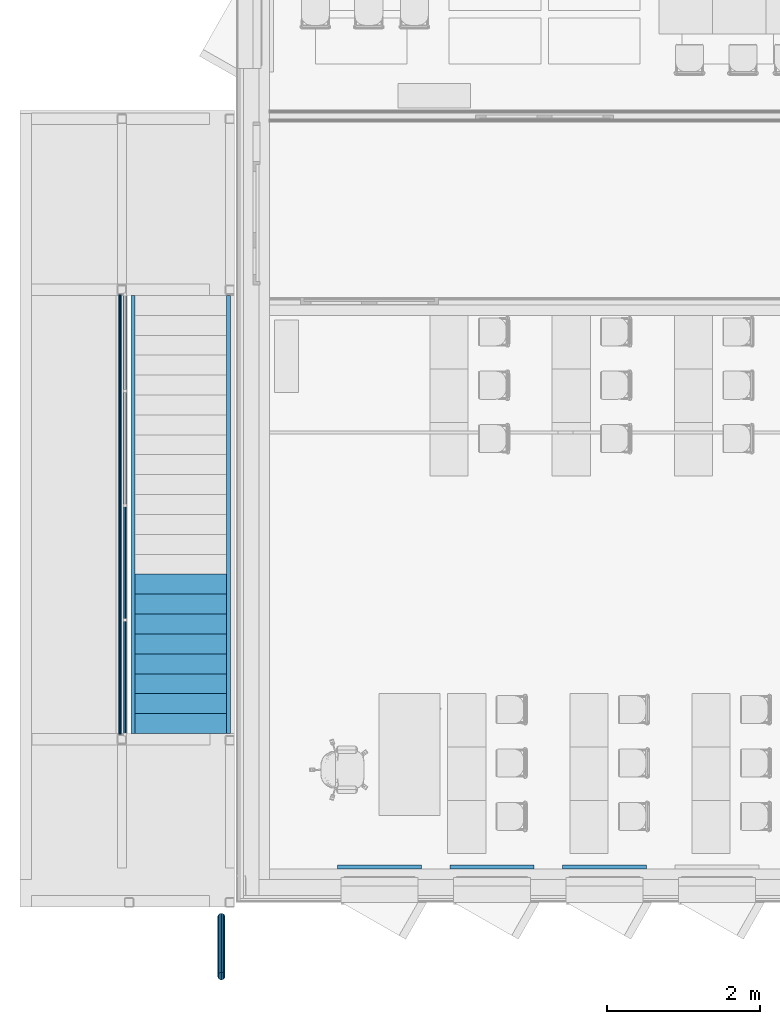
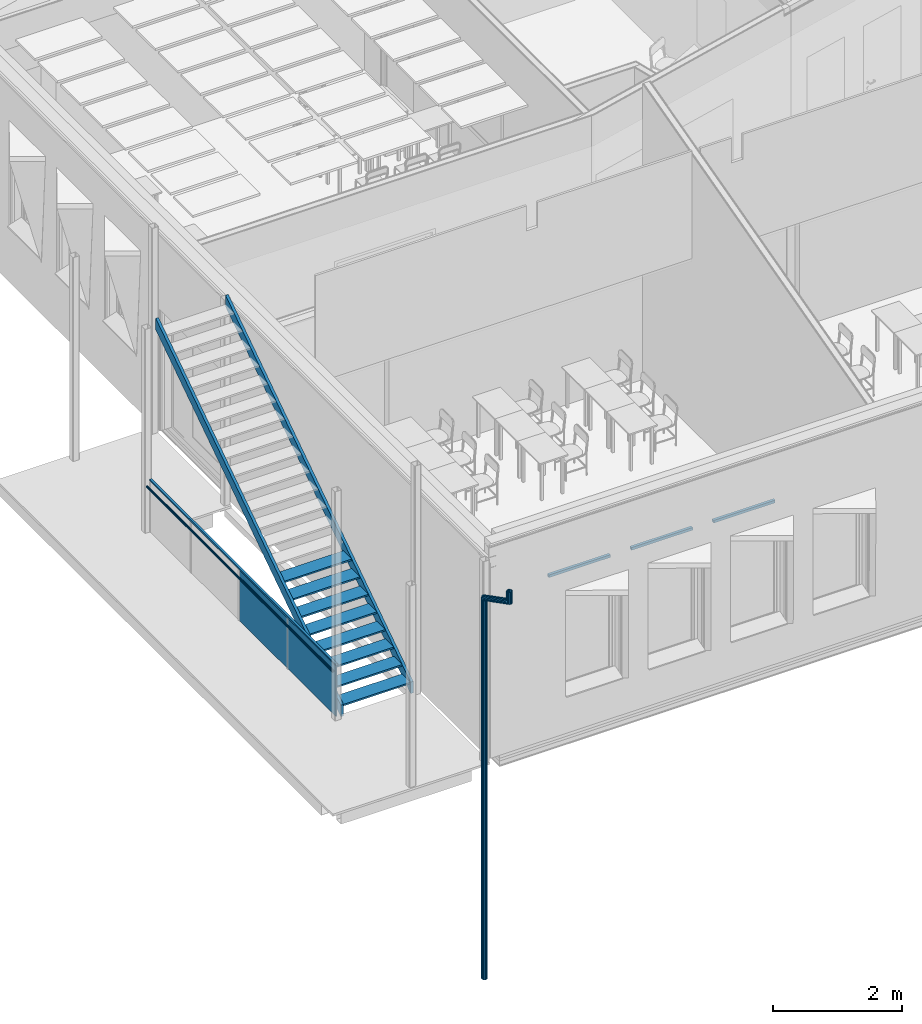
# One storey, part 49 of 153: 14 building element parts, 4 discrete accessories, 2 elements without a shape of their own.
"""IFC2X3 building model written with IfcOpenShell, lengths in millimetres."""

import ifcopenshell
import ifcopenshell.guid

model = None  # the IFC model being written
_history = None  # IfcOwnerHistory: only IFC2X3 demands one
_inside = {}  # id of a spatial element -> (the spatial element, [elements in it])
_under = {}  # id of a project, library or spatial element -> (it, [spatial elements below it])
_declared = {}  # id of a project -> (the project, [libraries it declares])
_typed = {}  # id of a type object -> (the type object, [elements of that type])
_made_of = {}  # id of a material, layer set ... -> (it, [elements and type objects made of it])


def new_model(schema):
    """Start an empty IFC model of exactly this schema.

    Asked for "IFC4X3", IfcOpenShell would pick the latest addendum, in which some entities
    have other attributes; the version numbers below select the first issue.
    IFC2X3 requires an IfcOwnerHistory on every rooted entity: one is made here for all.
    """
    global model, _history
    if schema == "IFC4X3":
        model = ifcopenshell.file(schema_version=(4, 3, 0, 0))
    else:
        model = ifcopenshell.file(schema=schema)
    _inside.clear()
    _under.clear()
    _declared.clear()
    _typed.clear()
    _made_of.clear()
    _history = None
    if model.schema == "IFC2X3":
        org = make("IfcOrganization", Name="unknown")
        user = make(
            "IfcPersonAndOrganization",
            ThePerson=make("IfcPerson", FamilyName="unknown"),
            TheOrganization=org,
        )
        app = make(
            "IfcApplication",
            ApplicationDeveloper=org,
            Version="unknown",
            ApplicationFullName="unknown",
            ApplicationIdentifier="unknown",
        )
        _history = make(
            "IfcOwnerHistory",
            OwningUser=user,
            OwningApplication=app,
            ChangeAction="ADDED",
            CreationDate=0,
        )
    return model


def make(cls, **values):
    """One entity of the class cls with the attributes given. An attribute that is None is left unset."""
    return model.create_entity(
        cls, **{name: value for name, value in values.items() if value is not None}
    )


def entity(cls, *values):
    """Any entity or typed value of the class cls, its attributes in the order of the schema. None: left unset."""
    e = model.create_entity(cls)
    for i, value in enumerate(values):
        if value is not None:
            e[i] = value
    return e


def rooted(cls, **values):
    """An entity with a GlobalId (a new one), such as an element, a storey or a relation."""
    return make(cls, GlobalId=ifcopenshell.guid.new(), OwnerHistory=_history, **values)


def si_unit(unit_type, name, prefix=None):
    """IfcSIUnit, for example si_unit("LENGTHUNIT", "METRE", prefix="MILLI")."""
    return make("IfcSIUnit", UnitType=unit_type, Prefix=prefix, Name=name)


def converted_unit(unit_type, name, factor, base, dimensions=None, offset=None):
    """IfcConversionBasedUnit, such as the inch: factor (a typed value) times the base unit."""
    return make(
        "IfcConversionBasedUnit"
        if offset is None
        else "IfcConversionBasedUnitWithOffset",
        ConversionOffset=offset,
        Dimensions=None
        if dimensions is None
        else entity("IfcDimensionalExponents", *dimensions),
        UnitType=unit_type,
        Name=name,
        ConversionFactor=make(
            "IfcMeasureWithUnit", ValueComponent=factor, UnitComponent=base
        ),
    )


def derived_unit(unit_type, elements):
    """IfcDerivedUnit: a product of units, each with its exponent."""
    return make(
        "IfcDerivedUnit",
        Elements=[
            make("IfcDerivedUnitElement", Unit=unit, Exponent=power)
            for unit, power in elements
        ],
        UnitType=unit_type,
    )


def money_unit(currency):
    """IfcMonetaryUnit."""
    return make("IfcMonetaryUnit", Currency=currency)


def assignment(units):
    """IfcUnitAssignment: the units of a project."""
    return None if units is None else make("IfcUnitAssignment", Units=units)


def point(xyz):
    """IfcCartesianPoint."""
    return None if xyz is None else make("IfcCartesianPoint", Coordinates=xyz)


def direction(xyz):
    """IfcDirection."""
    return None if xyz is None else make("IfcDirection", DirectionRatios=xyz)


def frame(location, z_axis=None, x_axis=None):
    """IfcAxis2Placement3D, a coordinate frame: its origin and axes. An axis left out is left unset."""
    return make(
        "IfcAxis2Placement3D",
        Location=point(location),
        Axis=direction(z_axis),
        RefDirection=direction(x_axis),
    )


def origin_with_axes():
    """The frame at (0, 0, 0) with the z axis (0, 0, 1) and the x axis (1, 0, 0) written out."""
    return frame((0.0, 0.0, 0.0), z_axis=(0.0, 0.0, 1.0), x_axis=(1.0, 0.0, 0.0))


def place(relative_to, where):
    """IfcLocalPlacement: puts the frame where relative to a parent placement (None: the world)."""
    return make(
        "IfcLocalPlacement", PlacementRelTo=relative_to, RelativePlacement=where
    )


def context(
    kind, dimensions, precision=None, world=None, true_north=None, identifier=None
):
    """IfcGeometricRepresentationContext, for example the 3D "Model" context."""
    return make(
        "IfcGeometricRepresentationContext",
        ContextIdentifier=identifier,
        ContextType=kind,
        CoordinateSpaceDimension=dimensions,
        Precision=precision,
        WorldCoordinateSystem=world,
        TrueNorth=true_north,
    )


def subcontext(parent, identifier, kind, view, scale=None):
    """IfcGeometricRepresentationSubContext, for example "Body" below "Model"."""
    return make(
        "IfcGeometricRepresentationSubContext",
        ContextIdentifier=identifier,
        ContextType=kind,
        ParentContext=parent,
        TargetScale=scale,
        TargetView=view,
    )


def project(units=None, contexts=None):
    """IfcProject with its units and contexts."""
    return rooted(
        "IfcProject",
        Name="project",
        RepresentationContexts=contexts,
        UnitsInContext=assignment(units),
    )


def spatial(cls, under=None, at=None, **own):
    """A site, building, storey or space (cls), placed at a placement, below another one or the project."""
    s = rooted(cls, ObjectPlacement=at, **own)
    if under is not None:
        _under.setdefault(under.id(), (under, []))[1].append(s)
    return s


def faces_of(points, faces, orient=None, outer=None):
    """IfcFace entities. A face is a list of loops; a loop is a list of indices into points, from 0.

    orient and outer hold one flag for each loop. By default every Orientation is true, the
    first loop of a face is its IfcFaceOuterBound and the others are IfcFaceBound.
    """
    made = []
    for i, loops in enumerate(faces):
        bounds = []
        for j, loop in enumerate(loops):
            is_outer = j == 0 if outer is None else outer[i][j]
            bounds.append(
                make(
                    "IfcFaceOuterBound" if is_outer else "IfcFaceBound",
                    Bound=make("IfcPolyLoop", Polygon=[points[k] for k in loop]),
                    Orientation=True if orient is None else orient[i][j],
                )
            )
        made.append(make("IfcFace", Bounds=bounds))
    return made


def open_shell(faces, orient=None, outer=None):
    """The faces of one IfcOpenShell. surface_model builds it on its shared points."""
    return ("IfcOpenShell", faces, orient, outer)


def faceted_brep(points, faces, orient=None, outer=None, voids=None):
    """IfcFacetedBrep: a solid bounded by flat faces; with voids (closed shells), ...WithVoids."""
    shared = [point(p) for p in points]
    hull = make("IfcClosedShell", CfsFaces=faces_of(shared, faces, orient, outer))
    if voids is None:
        return make("IfcFacetedBrep", Outer=hull)
    return make(
        "IfcFacetedBrepWithVoids",
        Outer=hull,
        Voids=[
            make(cls, CfsFaces=faces_of(shared, fs, o, b)) for cls, fs, o, b in voids
        ],
    )


def surface_model(cls, points, shells):
    """IfcFaceBasedSurfaceModel or IfcShellBasedSurfaceModel (cls): surfaces that need not close."""
    shared = [point(p) for p in points]
    made = [make(c, CfsFaces=faces_of(shared, fs, o, b)) for c, fs, o, b in shells]
    if cls == "IfcFaceBasedSurfaceModel":
        return make(cls, FbsmFaces=made)
    return make(cls, SbsmBoundary=made)


def shape(context_of_items, identifier, shape_type, items):
    """IfcShapeRepresentation: the items that make up one representation, for example the "Body"."""
    return make(
        "IfcShapeRepresentation",
        ContextOfItems=context_of_items,
        RepresentationIdentifier=identifier,
        RepresentationType=shape_type,
        Items=items,
    )


def material(Name=None, Category=None):
    """IfcMaterial."""
    return make("IfcMaterial", Name=Name, Category=Category)


def made_of(thing, what):
    """Note that an element or type object is made of a material, layer set ...; save() writes the relation."""
    if what is not None:
        _made_of.setdefault(what.id(), (what, []))[1].append(thing)
    return thing


def type_object(cls, material=None, **own):
    """A type object (cls), such as IfcWallType, which elements share."""
    return made_of(rooted(cls, **own), material)


def element(
    cls,
    number,
    at=None,
    inside=None,
    cuts=None,
    type_object=None,
    material=None,
    context=None,
    identifier="Body",
    shape_type=None,
    held_by="IfcProductDefinitionShape",
    body=None,
    shapes=None,
    **own,
):
    """One element of the class cls, such as IfcWall. Its Tag is "e" and its number.

    at: its placement. inside: the storey or other place that contains it. cuts: it is an
    opening in that element (IfcRelVoidsElement). A single representation is given by context,
    identifier, shape_type and body (its items); several are given by shapes. held_by: the class
    of the entity that holds the representations. save() writes the other relations.
    """
    e = rooted(cls, Tag="e%d" % number, ObjectPlacement=at, **own)
    if body is not None:
        shapes = [shape(context, identifier, shape_type, body)]
    if shapes is not None:
        e.Representation = make(held_by, Representations=shapes)
    if inside is not None:
        _inside.setdefault(inside.id(), (inside, []))[1].append(e)
    if cuts is not None:
        rooted(
            "IfcRelVoidsElement", RelatingBuildingElement=cuts, RelatedOpeningElement=e
        )
    if type_object is not None:
        _typed.setdefault(type_object.id(), (type_object, []))[1].append(e)
    return made_of(e, material)


def aggregate(whole, parts):
    """IfcRelAggregates: a whole, such as a stair, and the parts it consists of."""
    return rooted("IfcRelAggregates", RelatingObject=whole, RelatedObjects=parts)


def save(model, path):
    """Write the relations noted so far, then the file.

    IfcRelAggregates (storeys below a building ...), IfcRelContainedInSpatialStructure (elements
    in a storey), IfcRelDefinesByType, IfcRelAssociatesMaterial and IfcRelDeclares: one each for
    every whole, place, type object, material and project.
    """
    for whole, parts in _under.values():
        aggregate(whole, parts)
    for where, things in _inside.values():
        rooted(
            "IfcRelContainedInSpatialStructure",
            RelatedElements=things,
            RelatingStructure=where,
        )
    for kind, things in _typed.values():
        rooted("IfcRelDefinesByType", RelatedObjects=things, RelatingType=kind)
    for what, things in _made_of.values():
        rooted("IfcRelAssociatesMaterial", RelatedObjects=things, RelatingMaterial=what)
    for by, libraries in _declared.values():
        rooted("IfcRelDeclares", RelatingContext=by, RelatedDefinitions=libraries)
    model.write(path)


model = new_model("IFC2X3")

# Units and contexts
model_context = context("Model", 3, precision=0.01, world=origin_with_axes(), true_north=direction((0.0, 1.0)))
body_context = subcontext(model_context, "Body", "Model", "MODEL_VIEW")
ifc_project = project(units=[si_unit("LENGTHUNIT", "METRE", prefix="MILLI"), si_unit("AREAUNIT", "SQUARE_METRE"), si_unit("VOLUMEUNIT", "CUBIC_METRE"), converted_unit("PLANEANGLEUNIT", "DEGREE", entity("IfcPlaneAngleMeasure", 0.0174532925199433), si_unit("PLANEANGLEUNIT", "RADIAN"), dimensions=[0, 0, 0, 0, 0, 0, 0]), money_unit("EUR"), converted_unit("TIMEUNIT", "Year", entity("IfcTimeMeasure", 31557600.0), si_unit("TIMEUNIT", "SECOND"), dimensions=[0, 0, 1, 0, 0, 0, 0]), si_unit("MASSUNIT", "GRAM", prefix="KILO"), si_unit("THERMODYNAMICTEMPERATUREUNIT", "DEGREE_CELSIUS"), si_unit("LUMINOUSINTENSITYUNIT", "LUMEN"), si_unit("ENERGYUNIT", "JOULE", prefix="MEGA"), derived_unit("THERMALCONDUCTANCEUNIT", [(si_unit("POWERUNIT", "WATT"), 1), (si_unit("LENGTHUNIT", "METRE"), -1), (si_unit("THERMODYNAMICTEMPERATUREUNIT", "KELVIN"), -1)]), derived_unit("SPECIFICHEATCAPACITYUNIT", [(si_unit("ENERGYUNIT", "JOULE"), 1), (si_unit("MASSUNIT", "GRAM", prefix="KILO"), -1), (si_unit("THERMODYNAMICTEMPERATUREUNIT", "KELVIN"), -1)]), derived_unit("MASSDENSITYUNIT", [(si_unit("MASSUNIT", "GRAM", prefix="KILO"), 1), (si_unit("VOLUMEUNIT", "CUBIC_METRE"), -1)])], contexts=[model_context])

# Site, building, storey
site_placement = place(None, frame((0.0, 0.0, 8650.0), z_axis=(0.0, 0.0, 1.0), x_axis=(1.0, 0.0, 0.0)))
site = spatial("IfcSite", under=ifc_project, at=site_placement, Name="43301:001:0844", CompositionType="ELEMENT")
building_placement = place(site_placement, origin_with_axes())
building = spatial("IfcBuilding", under=site, at=building_placement, Name="Kuressaare Ametikooli tuulikute mehaanikute õppekorpus", CompositionType="ELEMENT")
storey_placement = place(building_placement, frame((0.0, 0.0, 4100.0), z_axis=(0.0, 0.0, 1.0), x_axis=(1.0, 0.0, 0.0)))
storey = spatial("IfcBuildingStorey", under=building, at=storey_placement, Name="2.korrus", CompositionType="ELEMENT", Elevation=4100.0)

# Discrete accessories
ifc_material_1 = material(Name="GENEERILINE - KONSTRUKTRIOON")
discrete_accessory_type_1 = type_object("IfcDiscreteAccessoryType", Name="GENEERILINE - KONSTRUKTRIOON 50")
for number, where, z_axis, x_axis, name in (
    (1, (89206.06851173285, 9123.838490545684, 2700.0), (0.0, 0.0, 1.0), (1.0, 0.0, 0.0), "RK"),
    (2, (90681.06851173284, 9123.838490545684, 2700.0), (0.0, 0.0, 1.0), (1.0, 0.0, 0.0), "RK"),
    (3, (92156.06851173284, 9123.838490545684, 2700.0), (0.0, 0.0, 1.0), (1.0, 0.0, 0.0), "RK"),
):
    element("IfcDiscreteAccessory", number, at=place(storey_placement, frame(where, z_axis=z_axis, x_axis=x_axis)), inside=storey, type_object=discrete_accessory_type_1, material=ifc_material_1, Name=name, context=body_context, shape_type="Brep", body=[
        faceted_brep([(0.0, 0.0, 49.99999999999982), (0.0, 0.0, 0.0), (1099.999999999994, 0.0, 0.0), (1099.999999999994, 0.0, 49.99999999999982), (0.0, 50.00000000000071, 49.99999999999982), (0.0, 50.00000000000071, 0.0), (1099.999999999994, 50.00000000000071, 0.0), (1099.999999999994, 50.00000000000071, 49.99999999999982)], [[[0, 1, 2, 3]], [[4, 5, 1, 0]], [[2, 1, 5, 6]], [[3, 2, 6, 7]], [[4, 0, 3, 7]], [[7, 6, 5, 4]]]),
    ])
discrete_accessory_type_2 = type_object("IfcDiscreteAccessoryType", Name="Downspout Complex 27")
discrete_accessory_placement = place(storey_placement, frame((87685.14832727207, 8814.391753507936, -3966.646428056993), z_axis=(0.0, 0.0, 1.0), x_axis=(1.0, 0.0, 0.0)))
element("IfcDiscreteAccessory", 4, at=discrete_accessory_placement, inside=storey, type_object=discrete_accessory_type_2, Name="SV püstik", context=body_context, shape_type="SurfaceModel", body=[
    surface_model("IfcShellBasedSurfaceModel", [(50.0, -320.2522919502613, 7000.949244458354), (46.19397662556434, -339.3864635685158, 7000.949244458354), (46.19397662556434, -339.3864635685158, 0.0), (50.0, -320.2522919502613, 0.0), (35.35533905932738, -355.6076310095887, 7000.949244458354), (35.35533905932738, -355.6076310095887, 0.0), (46.19397662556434, -301.1181203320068, 7000.949244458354), (46.19397662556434, -301.1181203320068, 0.0), (19.13417161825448, -366.4462685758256, 7000.949244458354), (19.13417161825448, -366.4462685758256, 0.0), (35.35533905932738, -284.8969528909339, 7000.949244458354), (35.35533905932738, -284.8969528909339, 0.0), (0.0, -370.2522919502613, 7000.949244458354), (0.0, -370.2522919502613, 0.0), (19.13417161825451, -274.0583153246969, 7000.949244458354), (19.13417161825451, -274.0583153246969, 0.0), (-19.13417161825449, -366.4462685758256, 7000.949244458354), (-19.13417161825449, -366.4462685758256, 0.0), (0.0, -270.2522919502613, 7000.949244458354), (0.0, -270.2522919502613, 0.0), (-35.35533905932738, -355.6076310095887, 7000.949244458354), (-35.35533905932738, -355.6076310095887, 0.0), (-19.13417161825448, -274.0583153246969, 7000.949244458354), (-19.13417161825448, -274.0583153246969, 0.0), (-46.19397662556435, -339.3864635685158, 7000.949244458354), (-46.19397662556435, -339.3864635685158, 0.0), (-35.35533905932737, -284.8969528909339, 7000.949244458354), (-35.35533905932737, -284.8969528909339, 0.0), (-50.0, -320.2522919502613, 7000.949244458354), (-50.0, -320.2522919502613, 0.0), (-46.19397662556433, -301.1181203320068, 7000.949244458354), (-46.19397662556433, -301.1181203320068, 0.0)], [open_shell([[[0, 1, 2, 3]], [[1, 4, 5, 2]], [[6, 0, 3, 7]], [[4, 8, 9, 5]], [[10, 6, 7, 11]], [[8, 12, 13, 9]], [[14, 10, 11, 15]], [[12, 16, 17, 13]], [[18, 14, 15, 19]], [[16, 20, 21, 17]], [[22, 18, 19, 23]], [[20, 24, 25, 21]], [[26, 22, 23, 27]], [[24, 28, 29, 25]], [[30, 26, 27, 31]], [[28, 30, 31, 29]]])]),
    surface_model("IfcShellBasedSurfaceModel", [(-50.0, -1095.080599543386, 7800.949244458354), (-46.19397662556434, -1075.946427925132, 7800.949244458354), (-46.19397662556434, -1075.946427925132, 7612.604799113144), (-50.0, -1095.080599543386, 7600.949244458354), (-35.35533905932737, -1059.725260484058, 7800.949244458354), (-35.35533905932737, -1059.725260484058, 7622.485901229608), (-46.19397662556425, -301.1181203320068, 7212.604799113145), (-49.99999999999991, -320.2522919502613, 7200.949244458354), (-46.19397662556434, -1114.21477116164, 7800.949244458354), (-46.19397662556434, -1114.21477116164, 7589.293689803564), (-19.13417161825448, -1048.886622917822, 7800.949244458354), (-19.13417161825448, -1048.886622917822, 7629.08824258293), (-35.35533905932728, -284.8969528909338, 7222.485901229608), (-46.19397662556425, -301.1181203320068, 7000.949244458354), (-49.99999999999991, -320.2522919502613, 7000.949244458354), (-46.19397662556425, -339.3864635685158, 7189.293689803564), (-35.35533905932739, -1130.435938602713, 7800.949244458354), (-35.35533905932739, -1130.435938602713, 7579.412587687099), (0.0, -1045.080599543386, 7800.949244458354), (0.0, -1045.080599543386, 7631.406676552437), (-19.13417161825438, -274.0583153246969, 7229.088242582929), (-35.35533905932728, -284.8969528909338, 7000.949244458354), (-46.19397662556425, -339.3864635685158, 7000.949244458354), (-35.35533905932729, -355.6076310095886, 7179.412587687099), (-19.13417161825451, -1141.27457616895, 7800.949244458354), (-19.13417161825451, -1141.27457616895, 7572.810246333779), (19.1341716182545, -1048.886622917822, 7800.949244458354), (19.1341716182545, -1048.886622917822, 7629.08824258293), (0.0, -270.2522919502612, 7231.406676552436), (-19.13417161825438, -274.0583153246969, 7000.949244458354), (-35.35533905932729, -355.6076310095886, 7000.949244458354), (-19.13417161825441, -366.4462685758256, 7172.810246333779), (0.0, -1145.080599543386, 7800.949244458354), (0.0, -1145.080599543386, 7570.491812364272), (35.35533905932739, -1059.725260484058, 7800.949244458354), (35.35533905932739, -1059.725260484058, 7622.485901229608), (19.13417161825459, -274.0583153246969, 7229.088242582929), (0.0, -270.2522919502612, 7000.949244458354), (-19.13417161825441, -366.4462685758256, 7000.949244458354), (0.0, -370.2522919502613, 7170.491812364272), (19.13417161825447, -1141.27457616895, 7800.949244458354), (19.13417161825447, -1141.27457616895, 7572.810246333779), (46.19397662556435, -1075.946427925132, 7800.949244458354), (46.19397662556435, -1075.946427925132, 7612.604799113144), (35.35533905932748, -284.8969528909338, 7222.485901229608), (19.13417161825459, -274.0583153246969, 7000.949244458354), (0.0, -370.2522919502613, 7000.949244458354), (19.13417161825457, -366.4462685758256, 7172.810246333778), (35.35533905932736, -1130.435938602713, 7800.949244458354), (35.35533905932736, -1130.435938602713, 7579.412587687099), (50.0, -1095.080599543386, 7800.949244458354), (50.0, -1095.080599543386, 7600.949244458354), (46.19397662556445, -301.1181203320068, 7212.604799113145), (35.35533905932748, -284.8969528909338, 7000.949244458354), (19.13417161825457, -366.4462685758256, 7000.949244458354), (35.35533905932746, -355.6076310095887, 7179.412587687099), (46.19397662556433, -1114.21477116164, 7800.949244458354), (46.19397662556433, -1114.21477116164, 7589.293689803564), (50.0000000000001, -320.2522919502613, 7200.949244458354), (46.19397662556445, -301.1181203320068, 7000.949244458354), (35.35533905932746, -355.6076310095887, 7000.949244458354), (46.19397662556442, -339.3864635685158, 7189.293689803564), (50.0000000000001, -320.2522919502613, 7000.949244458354), (46.19397662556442, -339.3864635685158, 7000.949244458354)], [open_shell([[[0, 1, 2, 3]], [[1, 4, 5, 2]], [[3, 2, 6, 7]], [[8, 0, 3, 9]], [[4, 10, 11, 5]], [[2, 5, 12, 6]], [[7, 6, 13, 14]], [[9, 3, 7, 15]], [[16, 8, 9, 17]], [[10, 18, 19, 11]], [[5, 11, 20, 12]], [[6, 12, 21, 13]], [[15, 7, 14, 22]], [[17, 9, 15, 23]], [[24, 16, 17, 25]], [[18, 26, 27, 19]], [[11, 19, 28, 20]], [[12, 20, 29, 21]], [[23, 15, 22, 30]], [[25, 17, 23, 31]], [[32, 24, 25, 33]], [[26, 34, 35, 27]], [[19, 27, 36, 28]], [[20, 28, 37, 29]], [[31, 23, 30, 38]], [[33, 25, 31, 39]], [[40, 32, 33, 41]], [[34, 42, 43, 35]], [[27, 35, 44, 36]], [[28, 36, 45, 37]], [[39, 31, 38, 46]], [[41, 33, 39, 47]], [[48, 40, 41, 49]], [[42, 50, 51, 43]], [[35, 43, 52, 44]], [[36, 44, 53, 45]], [[47, 39, 46, 54]], [[49, 41, 47, 55]], [[56, 48, 49, 57]], [[50, 56, 57, 51]], [[43, 51, 58, 52]], [[44, 52, 59, 53]], [[55, 47, 54, 60]], [[57, 49, 55, 61]], [[51, 57, 61, 58]], [[52, 58, 62, 59]], [[61, 55, 60, 63]], [[58, 61, 63, 62]]])]),
])

# Stair, building element parts
stair_placement = place(storey_placement, frame((87831.2266451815, 10898.83806945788, -19.99999999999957), z_axis=(0.0, 0.0, 1.0), x_axis=(1.0, 0.0, 0.0)))
stair = element("IfcStair", 5, at=stair_placement, inside=storey, Name="Trepp1", ShapeType="NOTDEFINED")
ifc_material_2 = material(Name="Metall - Teras - Konstruktsioon")
building_element_part_1_placement = place(stair_placement, origin_with_axes())
building_element_part_1 = element("IfcBuildingElementPart", 6, at=building_element_part_1_placement, material=ifc_material_2, Name="Metall - Teras - Konstruktsioon", context=body_context, shape_type="Brep", body=[
    faceted_brep([(-80.0000000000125, 5739.799999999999, 3803.341358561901), (-80.0000000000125, 0.0, -41.87603274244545), (-80.0000000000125, 0.0, 174.7826086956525), (-80.0000000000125, 5739.799999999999, 4020.0), (-30.00000000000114, 5739.799999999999, 3803.341358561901), (-30.00000000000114, 0.0, -41.87603274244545), (-30.00000000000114, 0.0, 174.7826086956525), (-30.00000000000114, 5739.799999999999, 4020.0)], [[[0, 1, 2, 3]], [[4, 5, 1, 0]], [[2, 1, 5, 6]], [[3, 2, 6, 7]], [[7, 4, 0, 3]], [[7, 6, 5, 4]]]),
])
building_element_part_2_placement = place(stair_placement, origin_with_axes())
building_element_part_2 = element("IfcBuildingElementPart", 7, at=building_element_part_2_placement, material=ifc_material_2, Name="Metall - Teras - Konstruktsioon", context=body_context, shape_type="Brep", body=[
    faceted_brep([(-1330.000000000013, 5739.799999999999, 3803.341358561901), (-1330.000000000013, 0.0, -41.87603274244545), (-1330.000000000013, 0.0, 174.7826086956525), (-1330.000000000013, 5739.799999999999, 4020.0), (-1280.000000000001, 5739.799999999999, 3803.341358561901), (-1280.000000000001, 0.0, -41.87603274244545), (-1280.000000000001, 0.0, 174.7826086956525), (-1280.000000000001, 5739.799999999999, 4020.0)], [[[0, 1, 2, 3]], [[4, 5, 1, 0]], [[2, 1, 5, 6]], [[3, 2, 6, 7]], [[7, 4, 0, 3]], [[7, 6, 5, 4]]]),
])
ifc_material_3 = material(Name="Steel")
building_element_part_3_placement = place(stair_placement, origin_with_axes())
building_element_part_3 = element("IfcBuildingElementPart", 8, at=building_element_part_3_placement, material=ifc_material_3, Name="Steel", context=body_context, shape_type="Brep", body=[
    faceted_brep([(-80.0000000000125, 0.0, 144.7826086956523), (-80.0000000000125, 0.0, 174.7826086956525), (-1280.000000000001, 0.0, 174.7826086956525), (-1280.000000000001, 0.0, 144.7826086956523), (-80.0000000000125, 260.8999999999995, 144.7826086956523), (-80.0000000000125, 260.8999999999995, 174.7826086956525), (-1280.000000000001, 260.8999999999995, 174.7826086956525), (-1280.000000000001, 260.8999999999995, 144.7826086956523)], [[[0, 1, 2, 3]], [[4, 5, 1, 0]], [[1, 5, 6, 2]], [[3, 2, 6, 7]], [[0, 3, 7, 4]], [[7, 6, 5, 4]]]),
])
building_element_part_4_placement = place(stair_placement, origin_with_axes())
building_element_part_4 = element("IfcBuildingElementPart", 9, at=building_element_part_4_placement, material=ifc_material_3, Name="Steel", context=body_context, shape_type="Brep", body=[
    faceted_brep([(-80.0000000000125, 521.8000000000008, 494.3478260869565), (-80.0000000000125, 521.8000000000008, 524.3478260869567), (-1280.000000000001, 521.8000000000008, 524.3478260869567), (-1280.000000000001, 521.8000000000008, 494.3478260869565), (-80.0000000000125, 782.7000000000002, 494.3478260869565), (-80.0000000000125, 782.7000000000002, 524.3478260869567), (-1280.000000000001, 782.7000000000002, 524.3478260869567), (-1280.000000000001, 782.7000000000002, 494.3478260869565)], [[[0, 1, 2, 3]], [[4, 5, 1, 0]], [[1, 5, 6, 2]], [[3, 2, 6, 7]], [[0, 3, 7, 4]], [[7, 6, 5, 4]]]),
])
building_element_part_5_placement = place(stair_placement, origin_with_axes())
building_element_part_5 = element("IfcBuildingElementPart", 10, at=building_element_part_5_placement, material=ifc_material_3, Name="Steel", context=body_context, shape_type="Brep", body=[
    faceted_brep([(-80.0000000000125, 782.7000000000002, 669.1304347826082), (-80.0000000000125, 782.7000000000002, 699.1304347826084), (-1280.000000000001, 782.7000000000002, 699.1304347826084), (-1280.000000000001, 782.7000000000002, 669.1304347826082), (-80.0000000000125, 1043.6, 669.1304347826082), (-80.0000000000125, 1043.6, 699.1304347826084), (-1280.000000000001, 1043.6, 699.1304347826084), (-1280.000000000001, 1043.6, 669.1304347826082)], [[[0, 1, 2, 3]], [[4, 5, 1, 0]], [[1, 5, 6, 2]], [[3, 2, 6, 7]], [[0, 3, 7, 4]], [[7, 6, 5, 4]]]),
])
building_element_part_6_placement = place(stair_placement, origin_with_axes())
building_element_part_6 = element("IfcBuildingElementPart", 11, at=building_element_part_6_placement, material=ifc_material_3, Name="Steel", context=body_context, shape_type="Brep", body=[
    faceted_brep([(-80.0000000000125, 1043.6, 843.9130434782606), (-80.0000000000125, 1043.6, 873.913043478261), (-1280.000000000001, 1043.6, 873.913043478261), (-1280.000000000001, 1043.6, 843.9130434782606), (-80.0000000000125, 1304.499999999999, 843.9130434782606), (-80.0000000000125, 1304.499999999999, 873.913043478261), (-1280.000000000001, 1304.499999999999, 873.913043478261), (-1280.000000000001, 1304.499999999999, 843.9130434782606)], [[[0, 1, 2, 3]], [[4, 5, 1, 0]], [[1, 5, 6, 2]], [[3, 2, 6, 7]], [[0, 3, 7, 4]], [[7, 6, 5, 4]]]),
])
building_element_part_7_placement = place(stair_placement, origin_with_axes())
building_element_part_7 = element("IfcBuildingElementPart", 12, at=building_element_part_7_placement, material=ifc_material_3, Name="Steel", context=body_context, shape_type="Brep", body=[
    faceted_brep([(-80.0000000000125, 260.8999999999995, 319.5652173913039), (-80.0000000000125, 260.8999999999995, 349.5652173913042), (-1280.000000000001, 260.8999999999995, 349.5652173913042), (-1280.000000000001, 260.8999999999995, 319.5652173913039), (-80.0000000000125, 521.7999999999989, 319.5652173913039), (-80.0000000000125, 521.7999999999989, 349.5652173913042), (-1280.000000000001, 521.7999999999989, 349.5652173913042), (-1280.000000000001, 521.7999999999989, 319.5652173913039)], [[[0, 1, 2, 3]], [[4, 5, 1, 0]], [[1, 5, 6, 2]], [[3, 2, 6, 7]], [[0, 3, 7, 4]], [[7, 6, 5, 4]]]),
])
building_element_part_8_placement = place(stair_placement, origin_with_axes())
building_element_part_8 = element("IfcBuildingElementPart", 13, at=building_element_part_8_placement, material=ifc_material_3, Name="Steel", context=body_context, shape_type="Brep", body=[
    faceted_brep([(-80.0000000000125, 1304.499999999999, 1018.695652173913), (-80.0000000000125, 1304.499999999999, 1048.695652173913), (-1280.000000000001, 1304.499999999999, 1048.695652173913), (-1280.000000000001, 1304.499999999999, 1018.695652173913), (-80.0000000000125, 1565.4, 1018.695652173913), (-80.0000000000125, 1565.4, 1048.695652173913), (-1280.000000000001, 1565.4, 1048.695652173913), (-1280.000000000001, 1565.4, 1018.695652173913)], [[[0, 1, 2, 3]], [[4, 5, 1, 0]], [[1, 5, 6, 2]], [[3, 2, 6, 7]], [[0, 3, 7, 4]], [[7, 6, 5, 4]]]),
])
building_element_part_9_placement = place(stair_placement, origin_with_axes())
building_element_part_9 = element("IfcBuildingElementPart", 14, at=building_element_part_9_placement, material=ifc_material_3, Name="Steel", context=body_context, shape_type="Brep", body=[
    faceted_brep([(-80.0000000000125, 1565.4, 1193.478260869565), (-80.0000000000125, 1565.4, 1223.478260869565), (-1280.000000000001, 1565.4, 1223.478260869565), (-1280.000000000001, 1565.4, 1193.478260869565), (-80.0000000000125, 1826.3, 1193.478260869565), (-80.0000000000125, 1826.3, 1223.478260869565), (-1280.000000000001, 1826.3, 1223.478260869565), (-1280.000000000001, 1826.3, 1193.478260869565)], [[[0, 1, 2, 3]], [[4, 5, 1, 0]], [[1, 5, 6, 2]], [[3, 2, 6, 7]], [[0, 3, 7, 4]], [[7, 6, 5, 4]]]),
])
building_element_part_10_placement = place(stair_placement, origin_with_axes())
building_element_part_10 = element("IfcBuildingElementPart", 15, at=building_element_part_10_placement, material=ifc_material_3, Name="Steel", context=body_context, shape_type="Brep", body=[
    faceted_brep([(-80.0000000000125, 1826.3, 1368.260869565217), (-80.0000000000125, 1826.3, 1398.260869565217), (-1280.000000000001, 1826.3, 1398.260869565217), (-1280.000000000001, 1826.3, 1368.260869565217), (-80.0000000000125, 2087.199999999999, 1368.260869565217), (-80.0000000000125, 2087.199999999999, 1398.260869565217), (-1280.000000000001, 2087.199999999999, 1398.260869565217), (-1280.000000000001, 2087.199999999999, 1368.260869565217)], [[[0, 1, 2, 3]], [[4, 5, 1, 0]], [[1, 5, 6, 2]], [[3, 2, 6, 7]], [[0, 3, 7, 4]], [[7, 6, 5, 4]]]),
])
aggregate(stair, [building_element_part_1, building_element_part_2, building_element_part_3, building_element_part_4, building_element_part_5, building_element_part_6, building_element_part_7, building_element_part_8, building_element_part_9, building_element_part_10])

# Railing, building element parts
railing_type = type_object("IfcRailingType", Name="Railing Type", PredefinedType="NOTDEFINED")
railing_placement = place(storey_placement, frame((86439.22664518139, 10898.83806945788, -19.99999999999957), z_axis=(0.0, 0.0, 1.0), x_axis=(-1.0, 0.0, 0.0)))
railing = element("IfcRailing", 16, at=railing_placement, inside=storey, type_object=railing_type, Name="Piire", PredefinedType="NOTDEFINED")
ifc_material_4 = material(Name="Teras - roostevaba")
building_element_part_11_placement = place(railing_placement, origin_with_axes())
building_element_part_11 = element("IfcBuildingElementPart", 17, at=building_element_part_11_placement, material=ifc_material_4, Name="Teras - roostevaba", context=body_context, shape_type="Brep", body=[
    faceted_brep([(104.9999999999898, 15.00034332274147, 880.0000000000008), (104.696155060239, 15.00034332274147, 883.4729635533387), (104.696155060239, -5754.999999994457, 883.4729635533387), (104.9999999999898, -5754.999999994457, 880.0000000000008), (104.696155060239, 15.00034332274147, 876.527036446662), (103.7938524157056, 15.00034332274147, 873.1595971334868), (102.3205080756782, 15.00034332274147, 870.0000000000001), (100.3208888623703, 15.00034332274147, 867.1442478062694), (97.85575219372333, 15.00034332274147, 864.6791111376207), (94.99999999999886, 15.00034332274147, 862.679491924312), (91.84040286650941, 15.00034332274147, 861.2061475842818), (88.47296355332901, 15.00034332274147, 860.3038449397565), (84.99999999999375, 15.00034332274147, 860.0000000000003), (81.52703644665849, 15.00034332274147, 860.3038449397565), (78.15959713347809, 15.00034332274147, 861.2061475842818), (74.99999999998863, 15.00034332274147, 862.679491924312), (72.14424780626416, 15.00034332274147, 864.6791111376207), (69.67911113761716, 15.00034332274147, 867.1442478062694), (67.67949192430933, 15.00034332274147, 870.0000000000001), (66.2061475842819, 15.00034332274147, 873.1595971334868), (65.3038449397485, 15.00034332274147, 876.527036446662), (64.99999999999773, 15.00034332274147, 880.0000000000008), (65.3038449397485, 15.00034332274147, 883.4729635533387), (66.2061475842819, 15.00034332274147, 886.8404028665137), (67.67949192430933, 15.00034332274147, 890.0000000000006), (69.67911113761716, 15.00034332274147, 892.8557521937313), (72.14424780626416, 15.00034332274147, 895.32088886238), (74.99999999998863, 15.00034332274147, 897.3205080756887), (78.15959713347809, 15.00034332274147, 898.7938524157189), (81.52703644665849, 15.00034332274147, 899.6961550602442), (84.99999999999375, 15.00034332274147, 900.0000000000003), (88.47296355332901, 15.00034332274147, 899.6961550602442), (91.84040286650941, 15.00034332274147, 898.7938524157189), (94.99999999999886, 15.00034332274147, 897.3205080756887), (97.85575219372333, 15.00034332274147, 895.32088886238), (100.3208888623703, 15.00034332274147, 892.8557521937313), (102.3205080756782, 15.00034332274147, 890.0000000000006), (103.7938524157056, 15.00034332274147, 886.8404028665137), (94.99999999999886, 15.00034332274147, 880.0000000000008), (94.84807753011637, 15.00034332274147, 881.7364817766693), (94.39692620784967, 15.00034332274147, 883.4202014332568), (93.66025403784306, 15.00034332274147, 885.0000000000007), (92.66044443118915, 15.00034332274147, 886.4278760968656), (91.42787609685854, 15.00034332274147, 887.66044443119), (89.9999999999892, 15.00034332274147, 888.6602540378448), (88.42020143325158, 15.00034332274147, 889.3969262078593), (86.73648177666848, 15.00034332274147, 889.8480775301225), (84.99999999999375, 15.00034332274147, 890.0000000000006), (83.26351822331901, 15.00034332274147, 889.8480775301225), (81.57979856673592, 15.00034332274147, 889.3969262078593), (79.9999999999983, 15.00034332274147, 888.6602540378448), (78.57212390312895, 15.00034332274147, 887.66044443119), (77.33955556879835, 15.00034332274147, 886.4278760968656), (76.33974596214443, 15.00034332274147, 885.0000000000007), (75.60307379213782, 15.00034332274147, 883.4202014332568), (75.15192246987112, 15.00034332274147, 881.7364817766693), (74.99999999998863, 15.00034332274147, 880.0000000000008), (75.15192246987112, 15.00034332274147, 878.2635182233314), (75.60307379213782, 15.00034332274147, 876.5797985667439), (76.33974596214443, 15.00034332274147, 875.0), (77.33955556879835, 15.00034332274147, 873.5721239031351), (78.57212390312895, 15.00034332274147, 872.3395555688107), (79.9999999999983, 15.00034332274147, 871.3397459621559), (81.57979856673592, 15.00034332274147, 870.6030737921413), (83.26351822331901, 15.00034332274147, 870.1519224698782), (84.99999999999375, 15.00034332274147, 870.0000000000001), (86.73648177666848, 15.00034332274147, 870.1519224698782), (88.42020143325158, 15.00034332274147, 870.6030737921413), (89.9999999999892, 15.00034332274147, 871.3397459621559), (91.42787609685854, 15.00034332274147, 872.3395555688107), (92.66044443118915, 15.00034332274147, 873.5721239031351), (93.66025403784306, 15.00034332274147, 875.0), (94.39692620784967, 15.00034332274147, 876.5797985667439), (94.84807753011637, 15.00034332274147, 878.2635182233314), (103.7938524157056, -5754.999999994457, 886.8404028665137), (102.3205080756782, -5754.999999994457, 890.0000000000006), (100.3208888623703, -5754.999999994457, 892.8557521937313), (97.85575219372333, -5754.999999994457, 895.32088886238), (94.99999999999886, -5754.999999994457, 897.3205080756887), (91.84040286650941, -5754.999999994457, 898.7938524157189), (88.47296355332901, -5754.999999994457, 899.6961550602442), (84.99999999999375, -5754.999999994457, 900.0000000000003), (81.52703644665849, -5754.999999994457, 899.6961550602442), (78.15959713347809, -5754.999999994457, 898.7938524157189), (74.99999999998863, -5754.999999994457, 897.3205080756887), (72.14424780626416, -5754.999999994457, 895.32088886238), (69.67911113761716, -5754.999999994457, 892.8557521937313), (67.67949192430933, -5754.999999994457, 890.0000000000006), (66.2061475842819, -5754.999999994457, 886.8404028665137), (65.3038449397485, -5754.999999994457, 883.4729635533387), (64.99999999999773, -5754.999999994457, 880.0000000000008), (65.3038449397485, -5754.999999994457, 876.527036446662), (66.2061475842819, -5754.999999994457, 873.1595971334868), (67.67949192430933, -5754.999999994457, 870.0000000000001), (69.67911113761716, -5754.999999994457, 867.1442478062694), (72.14424780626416, -5754.999999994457, 864.6791111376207), (74.99999999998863, -5754.999999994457, 862.679491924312), (78.15959713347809, -5754.999999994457, 861.2061475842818), (81.52703644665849, -5754.999999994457, 860.3038449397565), (84.99999999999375, -5754.999999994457, 860.0000000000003), (88.47296355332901, -5754.999999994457, 860.3038449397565), (91.84040286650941, -5754.999999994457, 861.2061475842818), (94.99999999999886, -5754.999999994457, 862.679491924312), (97.85575219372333, -5754.999999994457, 864.6791111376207), (100.3208888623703, -5754.999999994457, 867.1442478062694), (102.3205080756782, -5754.999999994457, 870.0000000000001), (103.7938524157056, -5754.999999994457, 873.1595971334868), (104.696155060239, -5754.999999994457, 876.527036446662), (94.99999999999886, -5754.999999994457, 880.0000000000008), (94.84807753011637, -5754.999999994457, 878.2635182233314), (94.39692620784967, -5754.999999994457, 876.5797985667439), (93.66025403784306, -5754.999999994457, 875.0), (92.66044443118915, -5754.999999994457, 873.5721239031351), (91.42787609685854, -5754.999999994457, 872.3395555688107), (89.9999999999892, -5754.999999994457, 871.3397459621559), (88.42020143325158, -5754.999999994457, 870.6030737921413), (86.73648177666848, -5754.999999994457, 870.1519224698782), (84.99999999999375, -5754.999999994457, 870.0000000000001), (83.26351822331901, -5754.999999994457, 870.1519224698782), (81.57979856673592, -5754.999999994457, 870.6030737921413), (79.9999999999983, -5754.999999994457, 871.3397459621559), (78.57212390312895, -5754.999999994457, 872.3395555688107), (77.33955556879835, -5754.999999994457, 873.5721239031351), (76.33974596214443, -5754.999999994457, 875.0), (75.60307379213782, -5754.999999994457, 876.5797985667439), (75.15192246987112, -5754.999999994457, 878.2635182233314), (74.99999999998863, -5754.999999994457, 880.0000000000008), (75.15192246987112, -5754.999999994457, 881.7364817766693), (75.60307379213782, -5754.999999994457, 883.4202014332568), (76.33974596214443, -5754.999999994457, 885.0000000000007), (77.33955556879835, -5754.999999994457, 886.4278760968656), (78.57212390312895, -5754.999999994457, 887.66044443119), (79.9999999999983, -5754.999999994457, 888.6602540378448), (81.57979856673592, -5754.999999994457, 889.3969262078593), (83.26351822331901, -5754.999999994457, 889.8480775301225), (84.99999999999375, -5754.999999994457, 890.0000000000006), (86.73648177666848, -5754.999999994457, 889.8480775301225), (88.42020143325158, -5754.999999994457, 889.3969262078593), (89.9999999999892, -5754.999999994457, 888.6602540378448), (91.42787609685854, -5754.999999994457, 887.66044443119), (92.66044443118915, -5754.999999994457, 886.4278760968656), (93.66025403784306, -5754.999999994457, 885.0000000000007), (94.39692620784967, -5754.999999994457, 883.4202014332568), (94.84807753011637, -5754.999999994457, 881.7364817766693)], [[[0, 1, 2, 3]], [[0, 4, 5, 6, 7, 8, 9, 10, 11, 12, 13, 14, 15, 16, 17, 18, 19, 20, 21, 22, 23, 24, 25, 26, 27, 28, 29, 30, 31, 32, 33, 34, 35, 36, 37, 1], [38, 39, 40, 41, 42, 43, 44, 45, 46, 47, 48, 49, 50, 51, 52, 53, 54, 55, 56, 57, 58, 59, 60, 61, 62, 63, 64, 65, 66, 67, 68, 69, 70, 71, 72, 73]], [[1, 37, 74, 2]], [[3, 2, 74, 75, 76, 77, 78, 79, 80, 81, 82, 83, 84, 85, 86, 87, 88, 89, 90, 91, 92, 93, 94, 95, 96, 97, 98, 99, 100, 101, 102, 103, 104, 105, 106, 107], [108, 109, 110, 111, 112, 113, 114, 115, 116, 117, 118, 119, 120, 121, 122, 123, 124, 125, 126, 127, 128, 129, 130, 131, 132, 133, 134, 135, 136, 137, 138, 139, 140, 141, 142, 143]], [[4, 0, 3, 107]], [[5, 4, 107, 106]], [[6, 5, 106, 105]], [[7, 6, 105, 104]], [[8, 7, 104, 103]], [[9, 8, 103, 102]], [[10, 9, 102, 101]], [[11, 10, 101, 100]], [[12, 11, 100, 99]], [[13, 12, 99, 98]], [[14, 13, 98, 97]], [[15, 14, 97, 96]], [[16, 15, 96, 95]], [[17, 16, 95, 94]], [[18, 17, 94, 93]], [[19, 18, 93, 92]], [[20, 19, 92, 91]], [[21, 20, 91, 90]], [[22, 21, 90, 89]], [[23, 22, 89, 88]], [[24, 23, 88, 87]], [[25, 24, 87, 86]], [[26, 25, 86, 85]], [[27, 26, 85, 84]], [[28, 27, 84, 83]], [[29, 28, 83, 82]], [[30, 29, 82, 81]], [[31, 30, 81, 80]], [[32, 31, 80, 79]], [[33, 32, 79, 78]], [[34, 33, 78, 77]], [[35, 34, 77, 76]], [[36, 35, 76, 75]], [[37, 36, 75, 74]], [[39, 38, 108, 143]], [[40, 39, 143, 142]], [[41, 40, 142, 141]], [[42, 41, 141, 140]], [[43, 42, 140, 139]], [[44, 43, 139, 138]], [[45, 44, 138, 137]], [[46, 45, 137, 136]], [[47, 46, 136, 135]], [[48, 47, 135, 134]], [[49, 48, 134, 133]], [[50, 49, 133, 132]], [[51, 50, 132, 131]], [[52, 51, 131, 130]], [[53, 52, 130, 129]], [[54, 53, 129, 128]], [[55, 54, 128, 127]], [[56, 55, 127, 126]], [[57, 56, 126, 125]], [[58, 57, 125, 124]], [[59, 58, 124, 123]], [[60, 59, 123, 122]], [[61, 60, 122, 121]], [[62, 61, 121, 120]], [[63, 62, 120, 119]], [[64, 63, 119, 118]], [[65, 64, 118, 117]], [[66, 65, 117, 116]], [[67, 66, 116, 115]], [[68, 67, 115, 114]], [[69, 68, 114, 113]], [[70, 69, 113, 112]], [[71, 70, 112, 111]], [[72, 71, 111, 110]], [[73, 72, 110, 109]], [[38, 73, 109, 108]]]),
])
building_element_part_12_placement = place(railing_placement, origin_with_axes())
building_element_part_12 = element("IfcBuildingElementPart", 18, at=building_element_part_12_placement, material=ifc_material_3, Name="Steel", context=body_context, shape_type="Brep", body=[
    faceted_brep([(0.0, 15.00034332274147, 1000.0), (0.0, 15.00034332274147, 968.0), (0.0, -5754.999999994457, 968.0), (0.0, -5754.999999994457, 1000.0), (39.99999999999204, 15.00034332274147, 1000.0), (39.99999999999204, 15.00034332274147, 968.0), (39.99999999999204, -5754.999999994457, 968.0), (39.99999999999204, -5754.999999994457, 1000.0)], [[[0, 1, 2, 3]], [[0, 4, 5, 1]], [[1, 5, 6, 2]], [[3, 2, 6, 7]], [[4, 0, 3, 7]], [[5, 4, 7, 6]]]),
])
ifc_material_5 = material(Name="Klaas")
building_element_part_13_placement = place(railing_placement, origin_with_axes())
building_element_part_13 = element("IfcBuildingElementPart", 19, at=building_element_part_13_placement, material=ifc_material_5, Name="Klaas", context=body_context, shape_type="Brep", body=[
    faceted_brep([(9.999999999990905, -1484.999656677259, 0.0), (9.999999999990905, -1484.999656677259, 960.0), (9.999999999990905, 15.00034332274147, 960.0), (9.999999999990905, 15.00034332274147, 0.0), (30.00000000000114, -1484.999656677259, 0.0), (30.00000000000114, -1484.999656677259, 960.0), (30.00000000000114, 15.00034332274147, 960.0), (30.00000000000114, 15.00034332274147, 0.0)], [[[0, 1, 2, 3]], [[0, 4, 5, 1]], [[1, 5, 6, 2]], [[6, 7, 3, 2]], [[7, 4, 0, 3]], [[6, 5, 4, 7]]]),
])
building_element_part_14_placement = place(railing_placement, origin_with_axes())
building_element_part_14 = element("IfcBuildingElementPart", 20, at=building_element_part_14_placement, material=ifc_material_5, Name="Klaas", context=body_context, shape_type="Brep", body=[
    faceted_brep([(9.999999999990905, -2984.999656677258, 0.0), (9.999999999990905, -2984.999656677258, 960.0), (9.999999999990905, -1484.999656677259, 960.0), (9.999999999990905, -1484.999656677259, 0.0), (30.00000000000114, -2984.999656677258, 0.0), (30.00000000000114, -2984.999656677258, 960.0), (30.00000000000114, -1484.999656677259, 960.0), (30.00000000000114, -1484.999656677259, 0.0)], [[[0, 1, 2, 3]], [[0, 4, 5, 1]], [[1, 5, 6, 2]], [[6, 7, 3, 2]], [[7, 4, 0, 3]], [[6, 5, 4, 7]]]),
])
aggregate(railing, [building_element_part_11, building_element_part_12, building_element_part_13, building_element_part_14])

save(model, "model.ifc")
